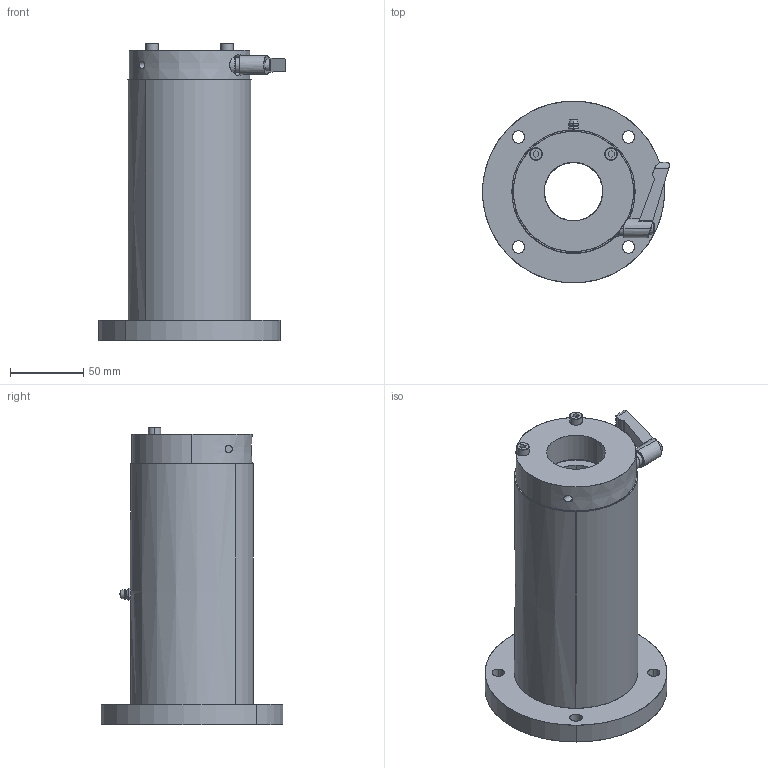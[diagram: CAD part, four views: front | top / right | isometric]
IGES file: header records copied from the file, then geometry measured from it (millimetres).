
Start section: SolidWorks IGES file using analytic representation for surfaces
Global section: file name: C:\Users\yamad\Desktop\IGES\LFW40-OH-C.IGS; native system: SolidWorks 2019; preprocessor: SolidWorks 2019; author: yamad; date: 230626.170844; units: millimetre
Bounding box: 127.4 x 124 x 203 mm (x, y, z)
Surface area: 130681 mm2 (no closed solid volume)
Topology: 0 solids, 0 shells, 224 faces, 6013 edges, 6011 vertices
Faces by surface type: bspline 120, revolution 104
